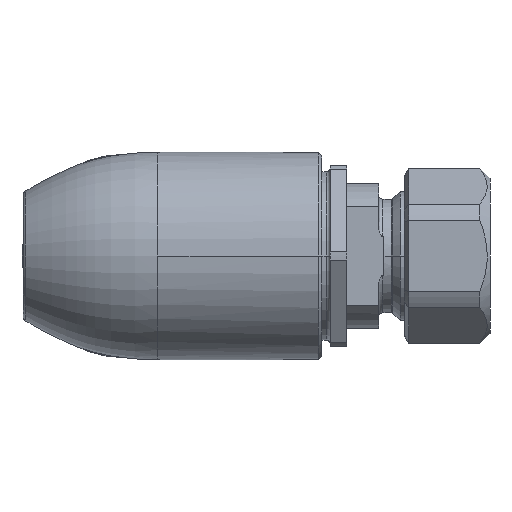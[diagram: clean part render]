
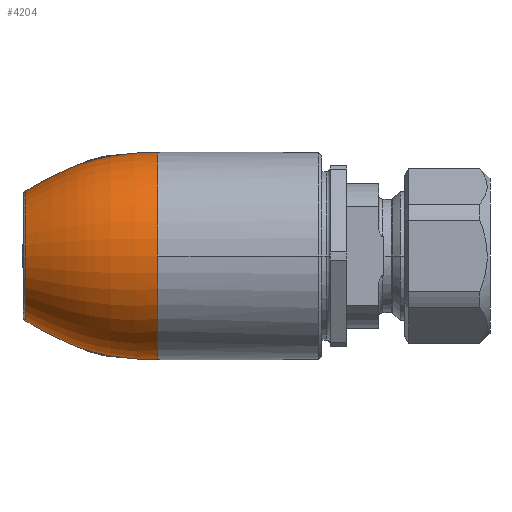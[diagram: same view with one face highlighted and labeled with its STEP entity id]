
A CAD part, left-side view. The second image highlights one B-rep face of the part: STEP entity #4204.
In plain terms, the highlighted face is a revolution surface.
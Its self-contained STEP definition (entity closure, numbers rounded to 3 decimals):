
#1003=CARTESIAN_POINT('',(4.77,9.149,4.248));
#1018=CARTESIAN_POINT('',(3.939,-3.2,9.031));
#1019=CARTESIAN_POINT('',(3.745,-2.861,9.107));
#1020=CARTESIAN_POINT('',(3.384,-2.21,9.224));
#1021=CARTESIAN_POINT('',(2.928,-1.332,9.316));
#1022=CARTESIAN_POINT('',(2.556,-0.535,
9.345));
#1023=CARTESIAN_POINT('',(2.265,0.194,9.326));
#1024=CARTESIAN_POINT('',(2.063,0.85,9.268));
#1025=CARTESIAN_POINT('',(1.945,1.424,9.187));
#1026=CARTESIAN_POINT('',(1.895,1.957,9.085));
#1027=CARTESIAN_POINT('',(1.908,2.488,8.956));
#1028=CARTESIAN_POINT('',(1.986,3.05,8.789));
#1029=CARTESIAN_POINT('',(2.139,3.669,8.567));
#1030=CARTESIAN_POINT('',(2.367,4.34,8.277));
#1031=CARTESIAN_POINT('',(2.663,5.062,7.905));
#1032=CARTESIAN_POINT('',(3.023,5.837,7.43));
#1033=CARTESIAN_POINT('',(3.417,6.616,6.866));
#1034=CARTESIAN_POINT('',(3.795,7.333,6.263));
#1035=CARTESIAN_POINT('',(4.153,7.996,5.624));
#1036=CARTESIAN_POINT('',(4.483,8.605,4.953));
#1037=CARTESIAN_POINT('',(4.68,8.974,4.485));
#1038=CARTESIAN_POINT('',(4.77,9.149,4.248));
#1062=CARTESIAN_POINT('',(3.939,-3.2,9.031));
#1105=CARTESIAN_POINT('',(0.4,-3.2,0.));
#1106=DIRECTION('',(0.,1.,0.));
#1107=DIRECTION('',(0.365,0.,-0.931));
#1108=AXIS2_PLACEMENT_3D('',#1105,#1106,#1107);
#1118=CARTESIAN_POINT('',(0.4,9.149,0.));
#1119=DIRECTION('',(0.,1.,0.));
#1120=DIRECTION('',(0.717,0.,-0.697));
#1121=AXIS2_PLACEMENT_3D('',#1118,#1119,#1120);
#1123=CARTESIAN_POINT('',(0.4,-3.2,0.));
#1124=DIRECTION('',(0.,-1.,0.));
#1125=DIRECTION('',(0.365,0.,0.931));
#1126=AXIS2_PLACEMENT_3D('',#1123,#1124,#1125);
#1128=CARTESIAN_POINT('',(3.939,-3.2,
-9.031));
#1129=CARTESIAN_POINT('',(3.653,-2.699,
-9.143));
#1130=CARTESIAN_POINT('',(3.124,-1.737,
-9.297));
#1131=CARTESIAN_POINT('',(2.482,-0.402,
-9.361));
#1132=CARTESIAN_POINT('',(2.034,0.847,
-9.284));
#1133=CARTESIAN_POINT('',(1.862,1.954,-9.099));
#1134=CARTESIAN_POINT('',(1.955,3.041,-8.808));
#1135=CARTESIAN_POINT('',(2.307,4.227,-8.349));
#1136=CARTESIAN_POINT('',(2.829,5.45,-7.697));
#1137=CARTESIAN_POINT('',(3.458,6.705,-6.827));
#1138=CARTESIAN_POINT('',(4.185,8.06,-5.603));
#1139=CARTESIAN_POINT('',(4.594,8.801,-4.717));
#1140=CARTESIAN_POINT('',(4.77,9.149,-4.248));
#2421=VERTEX_POINT('',#1062);
#2423=CARTESIAN_POINT('',(-9.3,-3.2,0.));
#2424=VERTEX_POINT('',#2423);
#2432=VERTEX_POINT('',#1003);
#2437=CARTESIAN_POINT('',(4.77,9.149,-4.248));
#2438=VERTEX_POINT('',#2437);
#2441=CARTESIAN_POINT('',(3.939,-3.2,
-9.031));
#2442=VERTEX_POINT('',#2441);
#4187=CARTESIAN_POINT('',(-5.694,9.149,0.));
#4188=CARTESIAN_POINT('',(-7.9,5.319,0.));
#4189=CARTESIAN_POINT('',(-9.3,2.574,0.));
#4190=CARTESIAN_POINT('',(-9.3,-3.2,0.));
#4192=CARTESIAN_POINT('',(0.4,9.261,0.));
#4193=DIRECTION('',(0.,-1.,0.));
#4194=AXIS1_PLACEMENT('',#4192,#4193);
#4195=SURFACE_OF_REVOLUTION('',#4191,#4194);
#4197=ORIENTED_EDGE('',*,*,#4196,.T.);
#4198=ORIENTED_EDGE('',*,*,#4067,.F.);
#4199=ORIENTED_EDGE('',*,*,#4167,.T.);
#4200=ORIENTED_EDGE('',*,*,#4178,.F.);
#4201=ORIENTED_EDGE('',*,*,#3825,.T.);
#4202=EDGE_LOOP('',(#4197,#4198,#4199,#4200,#4201));
#4203=FACE_OUTER_BOUND('',#4202,.F.);
#4204=ADVANCED_FACE('',(#4203),#4195,.T.);
#1039=B_SPLINE_CURVE_WITH_KNOTS('',3,(#1018,#1019,#1020,#1021,#1022,#1023,#1024,
#1025,#1026,#1027,#1028,#1029,#1030,#1031,#1032,#1033,#1034,#1035,#1036,#1037,
#1038),.UNSPECIFIED.,.F.,.F.,(4,1,1,1,1,1,1,1,1,1,1,1,1,1,1,1,1,1,4),(0.,
0.056,0.111,0.167,0.222,
0.278,0.333,0.389,0.444,0.5,
0.556,0.611,0.667,0.722,
0.778,0.833,0.889,0.944,1.),
.UNSPECIFIED.);
#1109=CIRCLE('',#1108,9.7);
#1122=CIRCLE('',#1121,6.094);
#1127=CIRCLE('',#1126,9.7);
#1141=B_SPLINE_CURVE_WITH_KNOTS('',3,(#1128,#1129,#1130,#1131,#1132,#1133,#1134,
#1135,#1136,#1137,#1138,#1139,#1140),.UNSPECIFIED.,.F.,.F.,(4,1,1,1,1,1,1,1,1,1,
4),(0.,0.1,0.2,0.3,0.4,0.5,0.6,0.7,0.8,0.9,1.),
.UNSPECIFIED.);
#3825=EDGE_CURVE('',#2442,#2438,#1141,.T.);
#4067=EDGE_CURVE('',#2421,#2432,#1039,.T.);
#4167=EDGE_CURVE('',#2421,#2424,#1127,.T.);
#4178=EDGE_CURVE('',#2442,#2424,#1109,.T.);
#4191=B_SPLINE_CURVE_WITH_KNOTS('',3,(#4187,#4188,#4189,#4190),.UNSPECIFIED.,
.F.,.F.,(4,4),(0.,1.),.UNSPECIFIED.);
#4196=EDGE_CURVE('',#2438,#2432,#1122,.T.);
